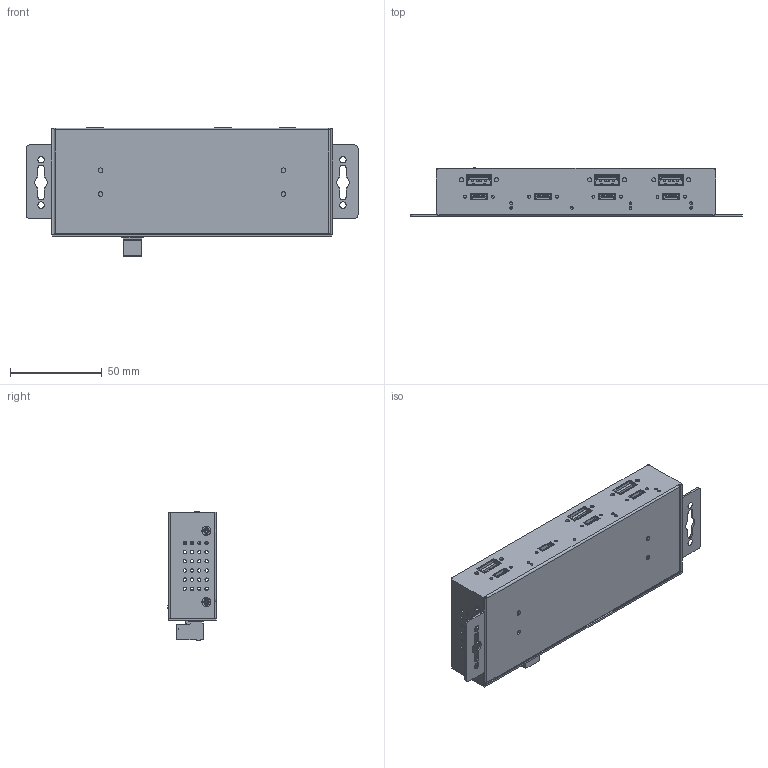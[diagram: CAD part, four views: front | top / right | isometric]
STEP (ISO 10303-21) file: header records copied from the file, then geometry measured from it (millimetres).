
FILE_DESCRIPTION(/* description */ (''),/* implementation_level */ '2;1');
FILE_NAME(/* name */ 'C:/Users/Leo/Desktop/AA CoolGear CADs/CG-7P4C3A/CG-7P4C3A Model3D LPV1.step',/* time_stamp */ '2021-05-19T12:25:11-04:00',/* author */ (''),/* organization */ (''),/* preprocessor_version */ 'ST-DEVELOPER v18.1',/* originating_system */ 'Autodesk Translation Framework v10.6.0.1341',/* authorisation */ '');
FILE_SCHEMA (('AUTOMOTIVE_DESIGN { 1 0 10303 214 3 1 1 }'));
Products named in the file (44): CG-7P4C3A; Component1; 93090A547; 93090A547(Mirror); Component4; C-type Usb v1; C-type Usb v1_1; TypeC(12); Conector 2dbl short dinkle_2esdsm-02p v1; Connector Volts SMALL v1; Component1 (1); Component2; Component3 (1); Component4 (1); 3mm_LED v1; 3mm_LED; led_energy (1); led_energy; led_pin.1.1.1 (1); led_pin.1.1.1; led_pin.2.1 (1); led_pin.2.1; M3X0.5 China 120ang METRIC 18-8 SS FLAT HEAD PHIL MACHINE SCREW v1; Phoenix connector EDZ950/XX TERMINAL BLOCK PLUGGABLE PLUG v1; USB port type A and C Block v3; USB Type A Single Blue v1; Download_STP_692121030100_(rev1) (1); USB type C mounting pcb v3; USB port type A and C Block v3_1; USB Type A Single Blue v1_1; Download_STP_692121030100_(rev1) (1)_1; USB type C mounting pcb v3_1; USB port type A and C Block v3_2; USB Type A Single Blue v1_2; Download_STP_692121030100_(rev1) (1)_2; housing1 (1); pin1 (1); housing2 (1); pin2 (1); pin (1)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
Assembly tree (81 placements, depth 5):
  CG-7P4C3A
    Component1
      93090A547  x2
      93090A547(Mirror)  x2
    Component4
    C-type Usb v1
      TypeC(12)
    C-type Usb v1_1
      TypeC(12)
    Conector 2dbl short dinkle_2esdsm-02p v1
    Connector Volts SMALL v1
      Component1 (1)
      Component2
      Component3 (1)
      Component4 (1)
    3mm_LED v1
      3mm_LED
        led_energy (1)
          led_energy
        led_pin.1.1.1 (1)
          led_pin.1.1.1
        led_pin.2.1 (1)
          led_pin.2.1
    M3X0.5 China 120ang METRIC 18-8 SS FLAT HEAD PHIL MACHINE SCREW v1  x4
    Phoenix connector EDZ950/XX TERMINAL BLOCK PLUGGABLE PLUG v1
    USB port type A and C Block v3
      USB Type A Single Blue v1
        Download_STP_692121030100_(rev1) (1)
          housing1 (1)
          pin1 (1)  x5
          housing2 (1)
          pin2 (1)  x2
          pin (1)  x2
          shielding (1)
      USB type C mounting pcb v3
        TypeC(12) (1)
    USB port type A and C Block v3_1
      USB Type A Single Blue v1_1
        Download_STP_692121030100_(rev1) (1)_1
          housing1 (1)
          pin1 (1)  x5
          housing2 (1)
          pin2 (1)  x2
          pin (1)  x2
          shielding (1)
      USB type C mounting pcb v3_1
        TypeC(12) (1)
    USB port type A and C Block v3_2
      USB Type A Single Blue v1_2
        Download_STP_692121030100_(rev1) (1)_2
          housing1 (1)
          pin1 (1)  x5
          housing2 (1)
          pin2 (1)  x2
          pin (1)  x2
          shielding (1)
      USB type C mounting pcb v3_2
        TypeC(12) (1)
    Component44
Bounding box: 181.3 x 26.73 x 70.1 mm (x, y, z)
Volume: 53790.6 mm3; surface area: 91250.1 mm2
Topology: 5 solids, 35 shells, 6494 faces, 18751 edges, 12097 vertices
Faces by surface type: plane 4801, cylinder 1485, cone 86, bspline 73, sphere 27, torus 22
Full cylindrical faces by diameter (mm): 0.5 x10, 1.25 x2, 1.5 x7, 1.6 x2, 1.623 x8, 1.8 x48, 2.014 x1, 2.271 x6, 2.35 x16, 2.529 x4, 2.592 x1, 2.998 x1, 3 x24, 3.45 x1, 3.5 x4, 3.643 x1, 3.86 x2, 4.248 x1, 5.4 x4, 6.048 x2, 7.2 x1, 8.4 x1
Entity records: 222011 total; most frequent: CARTESIAN_POINT 47062, ORIENTED_EDGE 37480, DIRECTION 34570, EDGE_CURVE 18740, LINE 15238, VECTOR 15238, VERTEX_POINT 12097, AXIS2_PLACEMENT_3D 9666
